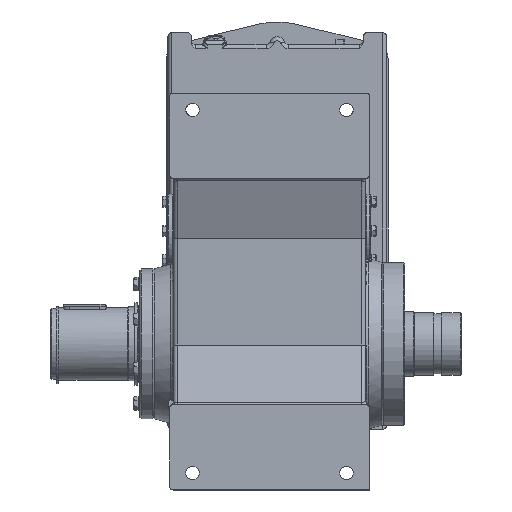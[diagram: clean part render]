
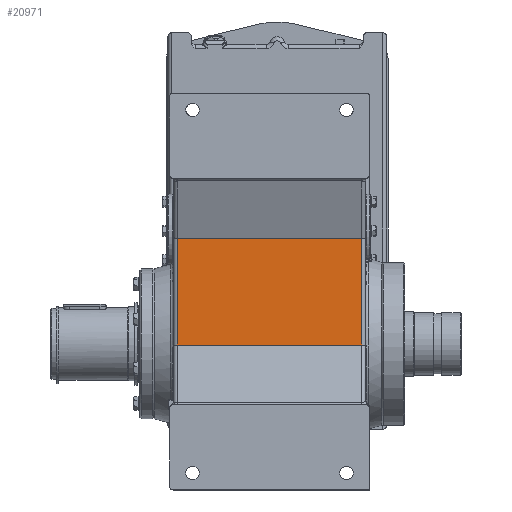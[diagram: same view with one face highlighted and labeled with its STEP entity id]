
A CAD part, front view. The second image highlights one B-rep face of the part: STEP entity #20971.
In plain terms, the highlighted planar face has unit normal (0, -1, 0).
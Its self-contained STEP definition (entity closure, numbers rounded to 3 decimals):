
#4714=FACE_OUTER_BOUND('',#6157,.T.);
#6157=EDGE_LOOP('',(#16804,#16805,#16806,#16807));
#7625=LINE('',#35836,#8787);
#7627=LINE('',#35843,#8789);
#7628=LINE('',#35846,#8790);
#7629=LINE('',#35847,#8791);
#8787=VECTOR('',#27133,173.388);
#8789=VECTOR('',#27145,300.);
#8790=VECTOR('',#27148,173.388);
#8791=VECTOR('',#27149,300.);
#10210=VERTEX_POINT('',#35060);
#10317=VERTEX_POINT('',#35831);
#10318=VERTEX_POINT('',#35835);
#10319=VERTEX_POINT('',#35845);
#12637=EDGE_CURVE('',#10317,#10318,#7625,.T.);
#12641=EDGE_CURVE('',#10210,#10318,#7627,.T.);
#12642=EDGE_CURVE('',#10210,#10319,#7628,.T.);
#12643=EDGE_CURVE('',#10319,#10317,#7629,.T.);
#16804=ORIENTED_EDGE('',*,*,#12642,.F.);
#16805=ORIENTED_EDGE('',*,*,#12641,.T.);
#16806=ORIENTED_EDGE('',*,*,#12637,.F.);
#16807=ORIENTED_EDGE('',*,*,#12643,.F.);
#20112=PLANE('',#22872);
#20971=ADVANCED_FACE('',(#4714),#20112,.T.);
#22872=AXIS2_PLACEMENT_3D('',#35844,#27146,#27147);
#27133=DIRECTION('',(0.,0.,-1.));
#27145=DIRECTION('',(1.,0.,0.));
#27146=DIRECTION('center_axis',(0.,-1.,0.));
#27147=DIRECTION('ref_axis',(-1.,0.,0.));
#27148=DIRECTION('',(0.,0.,1.));
#27149=DIRECTION('',(1.,0.,0.));
#35060=CARTESIAN_POINT('',(-34.589,68.934,502.512));
#35831=CARTESIAN_POINT('',(265.411,68.934,675.9));
#35835=CARTESIAN_POINT('',(265.411,68.934,502.512));
#35836=CARTESIAN_POINT('',(265.411,68.934,547.843));
#35843=CARTESIAN_POINT('',(115.411,68.934,502.512));
#35844=CARTESIAN_POINT('Origin',(115.411,68.934,502.512));
#35845=CARTESIAN_POINT('',(-34.589,68.934,675.9));
#35846=CARTESIAN_POINT('',(-34.589,68.934,547.843));
#35847=CARTESIAN_POINT('',(115.411,68.934,675.9));
